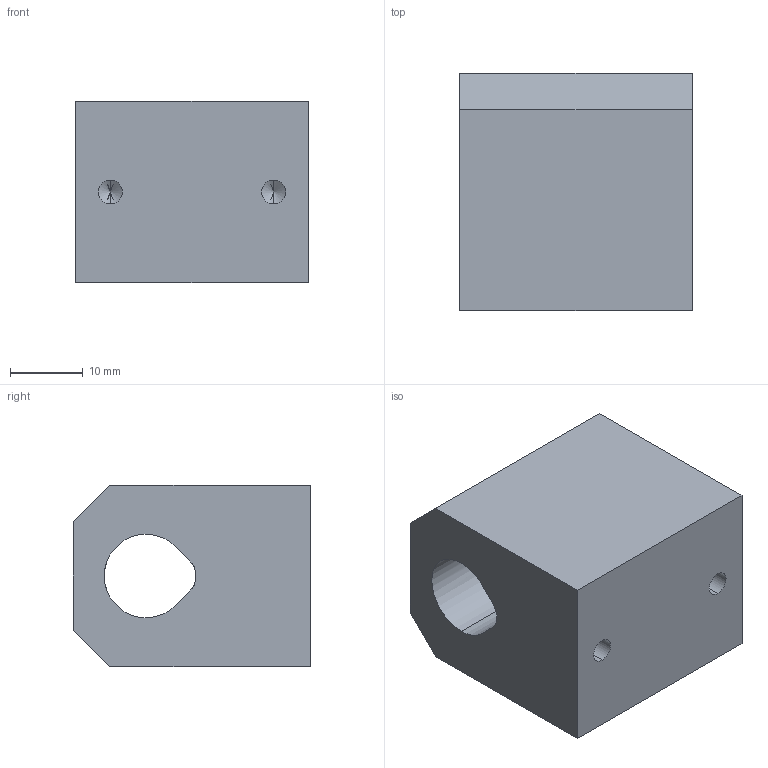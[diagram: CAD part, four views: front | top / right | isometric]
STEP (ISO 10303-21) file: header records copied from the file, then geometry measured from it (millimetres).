
FILE_DESCRIPTION (( 'STEP AP214' ), '1' );
FILE_NAME ('2020-05 - LASER HOLDER.STEP', '2022-08-05T18:05:47', ( '' ), ( '' ), 'SwSTEP 2.0', 'SolidWorks 2020', '' );
FILE_SCHEMA (( 'AUTOMOTIVE_DESIGN' ));
Length unit declared in the file: millimetre
Products named in the file (1): 2020-05 - LASER HOLDER
Bounding box: 32 x 32.66 x 25 mm (x, y, z)
Volume: 21353.3 mm3; surface area: 6381.9 mm2
Topology: 1 solids, 1 shells, 36 faces, 92 edges, 58 vertices
Faces by surface type: cylinder 19, plane 13, cone 4
Entity records: 1168 total; most frequent: CARTESIAN_POINT 239, DIRECTION 198, ORIENTED_EDGE 176, EDGE_CURVE 88, AXIS2_PLACEMENT_3D 75, VERTEX_POINT 58, VECTOR 48, LINE 48
